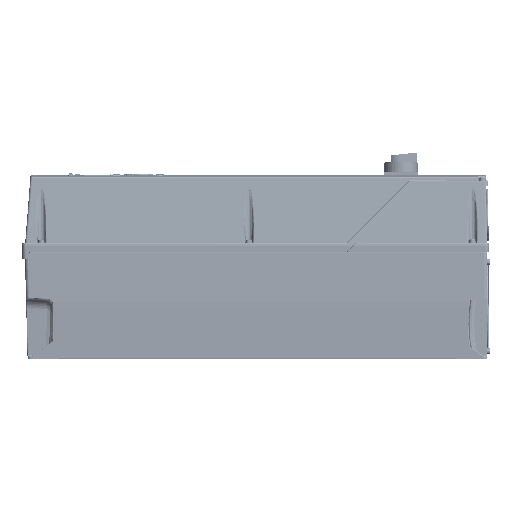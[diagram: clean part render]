
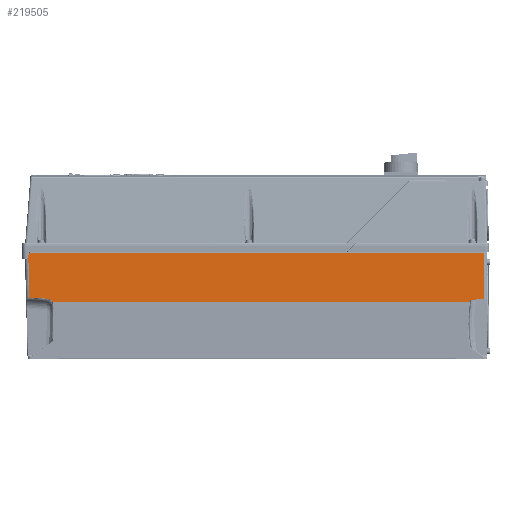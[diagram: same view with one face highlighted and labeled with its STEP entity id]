
A CAD part, left-side view. The second image highlights one B-rep face of the part: STEP entity #219505.
In plain terms, the highlighted planar face has unit normal (-1, 0, 0.024).
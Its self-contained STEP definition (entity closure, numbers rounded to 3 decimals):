
#22877=CARTESIAN_POINT('',(-119.098,318.091,
-2.488));
#49734=CARTESIAN_POINT('',(-120.686,-298.655,
-67.489));
#49741=CARTESIAN_POINT('',(-120.75,-297.88,
-70.105));
#50048=DIRECTION('',(0.001,0.998,0.061));
#50049=VECTOR('',#50048,25.514);
#50050=CARTESIAN_POINT('',(-120.645,291.007,
-65.824));
#50051=LINE('',#50050,#50049);
#50052=DIRECTION('',(0.024,0.026,0.999));
#50053=VECTOR('',#50052,61.818);
#50054=CARTESIAN_POINT('',(-120.607,316.473,
-64.266));
#50055=LINE('',#50054,#50053);
#50056=DIRECTION('',(0.,1.,0.));
#50057=VECTOR('',#50056,636.291);
#50058=CARTESIAN_POINT('',(-119.098,-318.2,
-2.488));
#50059=LINE('',#50058,#50057);
#50060=DIRECTION('',(-0.024,0.,-1.));
#50061=VECTOR('',#50060,63.825);
#50062=CARTESIAN_POINT('',(-119.098,-318.2,
-2.488));
#50063=LINE('',#50062,#50061);
#50064=CARTESIAN_POINT('',(-120.75,-297.88,
-70.105));
#50065=CARTESIAN_POINT('',(-120.75,-297.9,
-70.096));
#50066=CARTESIAN_POINT('',(-120.749,-297.936,
-70.069));
#50067=CARTESIAN_POINT('',(-120.747,-297.977,
-69.985));
#50068=CARTESIAN_POINT('',(-120.745,-298.011,
-69.906));
#50069=CARTESIAN_POINT('',(-120.743,-298.044,
-69.818));
#50070=CARTESIAN_POINT('',(-120.741,-298.077,
-69.725));
#50071=CARTESIAN_POINT('',(-120.738,-298.11,
-69.622));
#50072=CARTESIAN_POINT('',(-120.735,-298.145,
-69.508));
#50073=CARTESIAN_POINT('',(-120.732,-298.182,
-69.381));
#50074=CARTESIAN_POINT('',(-120.729,-298.221,
-69.242));
#50075=CARTESIAN_POINT('',(-120.725,-298.262,
-69.091));
#50076=CARTESIAN_POINT('',(-120.721,-298.304,
-68.931));
#50077=CARTESIAN_POINT('',(-120.717,-298.348,
-68.762));
#50078=CARTESIAN_POINT('',(-120.713,-298.392,
-68.587));
#50079=CARTESIAN_POINT('',(-120.708,-298.436,
-68.407));
#50080=CARTESIAN_POINT('',(-120.704,-298.481,
-68.223));
#50081=CARTESIAN_POINT('',(-120.699,-298.526,
-68.038));
#50082=CARTESIAN_POINT('',(-120.695,-298.57,
-67.853));
#50083=CARTESIAN_POINT('',(-120.69,-298.613,
-67.669));
#50084=CARTESIAN_POINT('',(-120.688,-298.641,
-67.549));
#50085=CARTESIAN_POINT('',(-120.686,-298.655,
-67.489));
#50087=DIRECTION('',(0.,1.,0.));
#50088=VECTOR('',#50087,582.019);
#50089=CARTESIAN_POINT('',(-120.75,-297.88,
-70.105));
#50090=LINE('',#50089,#50088);
#50091=CARTESIAN_POINT('',(-120.75,284.139,
-70.107));
#50092=CARTESIAN_POINT('',(-120.735,284.492,
-69.488));
#50093=CARTESIAN_POINT('',(-120.708,285.316,
-68.372));
#50094=CARTESIAN_POINT('',(-120.675,286.976,
-67.022));
#50095=CARTESIAN_POINT('',(-120.653,288.916,
-66.128));
#50096=CARTESIAN_POINT('',(-120.646,290.29,
-65.868));
#50097=CARTESIAN_POINT('',(-120.645,291.007,
-65.824));
#50113=DIRECTION('',(0.001,-0.998,0.061));
#50114=VECTOR('',#50113,19.582);
#50115=CARTESIAN_POINT('',(-120.686,-298.655,
-67.489));
#50116=LINE('',#50115,#50114);
#50121=CARTESIAN_POINT('',(-120.657,-318.2,-66.294));
#91736=VERTEX_POINT('',#22877);
#91738=CARTESIAN_POINT('',(-119.098,-318.2,
-2.488));
#91739=VERTEX_POINT('',#91738);
#92252=VERTEX_POINT('',#49741);
#92352=CARTESIAN_POINT('',(-120.645,291.007,
-65.824));
#92353=CARTESIAN_POINT('',(-120.607,316.473,
-64.266));
#92354=VERTEX_POINT('',#92352);
#92355=VERTEX_POINT('',#92353);
#92407=VERTEX_POINT('',#49734);
#97446=VERTEX_POINT('',#50121);
#97454=VERTEX_POINT('',#50091);
#219488=CARTESIAN_POINT('',(-120.75,-323.,-70.105));
#219489=DIRECTION('',(-1.,0.,0.024));
#219490=DIRECTION('',(0.024,0.,1.));
#219491=AXIS2_PLACEMENT_3D('',#219488,#219489,#219490);
#219492=PLANE('',#219491);
#219493=ORIENTED_EDGE('',*,*,#139838,.T.);
#219494=ORIENTED_EDGE('',*,*,#139926,.T.);
#219495=ORIENTED_EDGE('',*,*,#139988,.F.);
#219497=ORIENTED_EDGE('',*,*,#219496,.T.);
#219499=ORIENTED_EDGE('',*,*,#219498,.F.);
#219500=ORIENTED_EDGE('',*,*,#218558,.F.);
#219501=ORIENTED_EDGE('',*,*,#218576,.T.);
#219502=ORIENTED_EDGE('',*,*,#219480,.T.);
#219503=EDGE_LOOP('',(#219493,#219494,#219495,#219497,#219499,#219500,#219501,
#219502));
#219504=FACE_OUTER_BOUND('',#219503,.F.);
#50086=B_SPLINE_CURVE_WITH_KNOTS('',3,(#50064,#50065,#50066,#50067,#50068,
#50069,#50070,#50071,#50072,#50073,#50074,#50075,#50076,#50077,#50078,#50079,
#50080,#50081,#50082,#50083,#50084,#50085),.UNSPECIFIED.,.F.,.F.,(4,1,1,1,1,1,1,
1,1,1,1,1,1,1,1,1,1,1,1,4),(0.,0.053,0.105,
0.158,0.211,0.263,0.316,
0.368,0.421,0.474,0.526,
0.579,0.632,0.684,0.737,
0.789,0.842,0.895,0.947,1.),
.UNSPECIFIED.);
#50098=B_SPLINE_CURVE_WITH_KNOTS('',3,(#50091,#50092,#50093,#50094,#50095,
#50096,#50097),.UNSPECIFIED.,.F.,.F.,(4,1,1,1,4),(0.,0.25,0.5,0.75,
1.),.UNSPECIFIED.);
#139838=EDGE_CURVE('',#92354,#92355,#50051,.T.);
#139926=EDGE_CURVE('',#92355,#91736,#50055,.T.);
#139988=EDGE_CURVE('',#91739,#91736,#50059,.T.);
#218558=EDGE_CURVE('',#92252,#92407,#50086,.T.);
#218576=EDGE_CURVE('',#92252,#97454,#50090,.T.);
#219480=EDGE_CURVE('',#97454,#92354,#50098,.T.);
#219496=EDGE_CURVE('',#91739,#97446,#50063,.T.);
#219498=EDGE_CURVE('',#92407,#97446,#50116,.T.);
#219505=ADVANCED_FACE('',(#219504),#219492,.T.);
